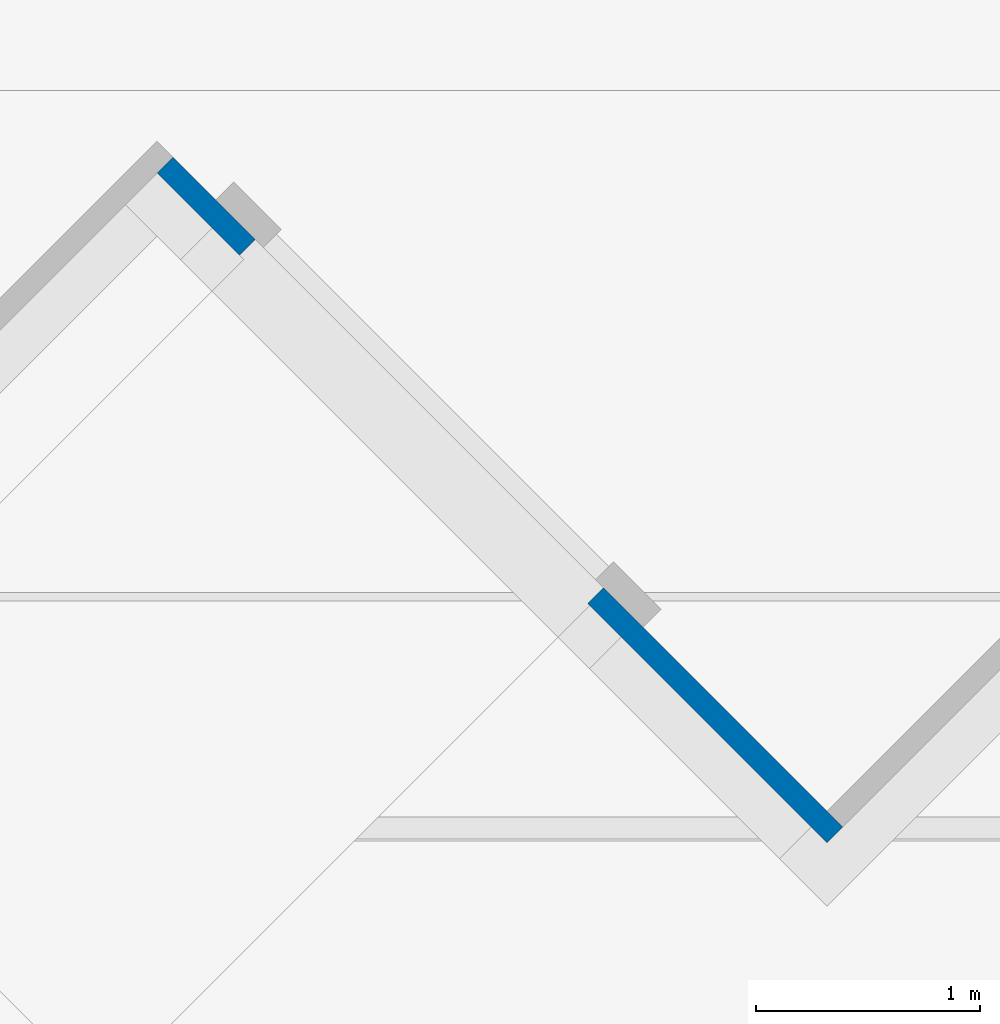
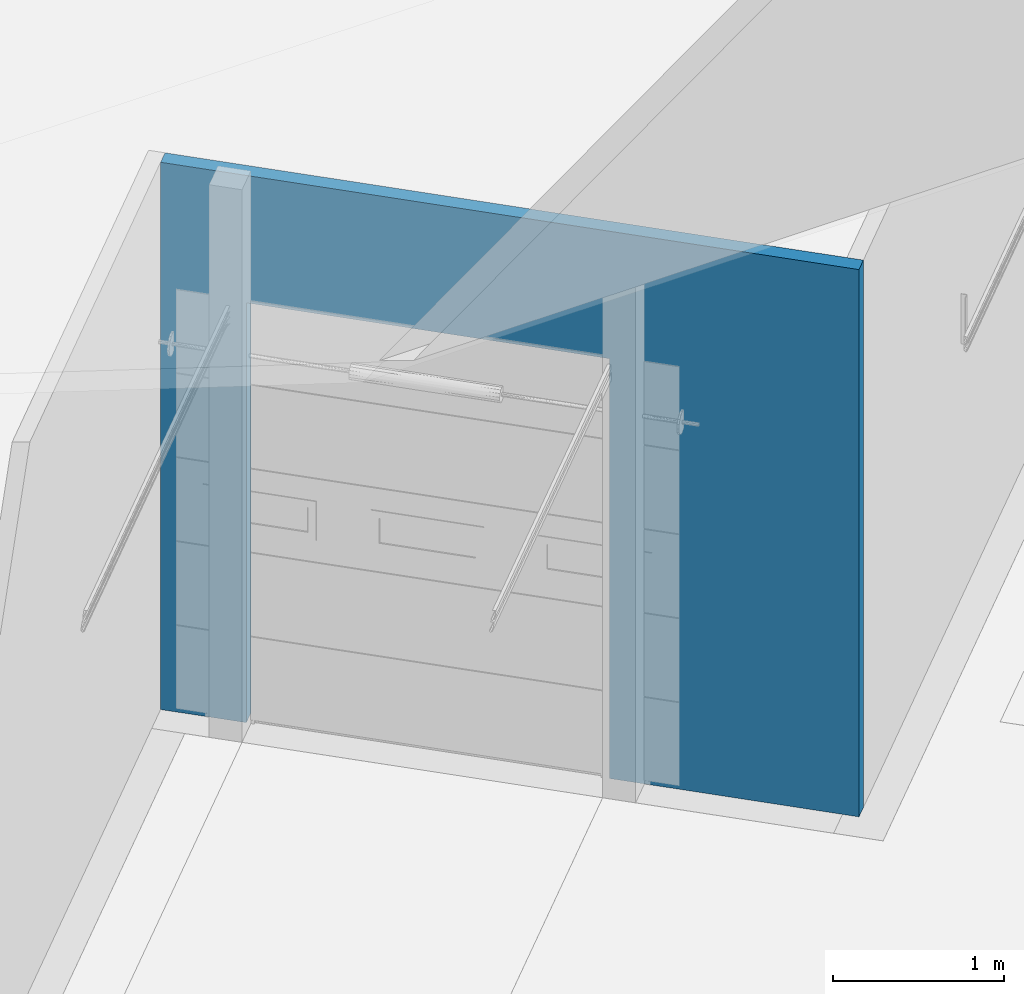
# One storey, part 21 of 64: 1 wall, 1 opening.
"""IFC2X3 building model written with IfcOpenShell, lengths in millimetres."""

from ifc_helpers import new_model, entity, si_unit, converted_unit, derived_unit, direction, frame, frame_2d, origin, place, context, subcontext, project, spatial, rectangle, extrude, material, layer, layer_set, layer_usage, type_object, element, save


model = new_model("IFC2X3")

# Units and contexts
model_context = context("Model", 3, precision=0.01, world=origin(), true_north=direction((4.05803320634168e-15, -1.0)))
body_context = subcontext(model_context, "Body", "Model", "MODEL_VIEW")
ifc_project = project(units=[si_unit("LENGTHUNIT", "METRE", prefix="MILLI"), si_unit("AREAUNIT", "SQUARE_METRE"), si_unit("VOLUMEUNIT", "CUBIC_METRE"), converted_unit("PLANEANGLEUNIT", "DEGREE", entity("IfcRatioMeasure", 0.0174532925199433), si_unit("PLANEANGLEUNIT", "RADIAN"), dimensions=[0, 0, 0, 0, 0, 0, 0]), si_unit("MASSUNIT", "GRAM", prefix="KILO"), derived_unit("MASSDENSITYUNIT", [(si_unit("MASSUNIT", "GRAM", prefix="KILO"), 1), (si_unit("LENGTHUNIT", "METRE"), -3)]), si_unit("TIMEUNIT", "SECOND"), si_unit("FREQUENCYUNIT", "HERTZ"), si_unit("THERMODYNAMICTEMPERATUREUNIT", "DEGREE_CELSIUS"), derived_unit("THERMALTRANSMITTANCEUNIT", [(si_unit("MASSUNIT", "GRAM", prefix="KILO"), 1), (si_unit("THERMODYNAMICTEMPERATUREUNIT", "KELVIN"), -1), (si_unit("TIMEUNIT", "SECOND"), -3)]), derived_unit("VOLUMETRICFLOWRATEUNIT", [(si_unit("LENGTHUNIT", "METRE"), 3), (si_unit("TIMEUNIT", "SECOND"), -1)]), si_unit("ELECTRICCURRENTUNIT", "AMPERE"), si_unit("ELECTRICVOLTAGEUNIT", "VOLT"), si_unit("POWERUNIT", "WATT"), si_unit("FORCEUNIT", "NEWTON", prefix="KILO"), si_unit("ILLUMINANCEUNIT", "LUX"), si_unit("LUMINOUSFLUXUNIT", "LUMEN"), si_unit("LUMINOUSINTENSITYUNIT", "CANDELA"), derived_unit("USERDEFINED", [(si_unit("MASSUNIT", "GRAM", prefix="KILO"), -1), (si_unit("LENGTHUNIT", "METRE"), -2), (si_unit("TIMEUNIT", "SECOND"), 3), (si_unit("LUMINOUSFLUXUNIT", "LUMEN"), 1)]), derived_unit("LINEARVELOCITYUNIT", [(si_unit("LENGTHUNIT", "METRE"), 1), (si_unit("TIMEUNIT", "SECOND"), -1)]), si_unit("PRESSUREUNIT", "PASCAL"), derived_unit("USERDEFINED", [(si_unit("LENGTHUNIT", "METRE"), -2), (si_unit("MASSUNIT", "GRAM", prefix="KILO"), 1), (si_unit("TIMEUNIT", "SECOND"), -2)])], contexts=[model_context])

# Site, building, storey
site_placement = place(None, frame((927466.849349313, 583801.882853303, 0.0), z_axis=(0.0, 0.0, 1.0), x_axis=(-1.0, 0.0, 0.0)))
site = spatial("IfcSite", under=ifc_project, at=site_placement, Name="Surface", CompositionType="ELEMENT")
building_placement = place(site_placement, origin())
building = spatial("IfcBuilding", under=site, at=building_placement, CompositionType="ELEMENT")
storey_placement = place(building_placement, frame((0.0, 0.0, 44170.0)))
storey = spatial("IfcBuildingStorey", under=building, at=storey_placement, Name="Ground FFL", CompositionType="ELEMENT", Elevation=44170.0)

# Wall, opening
ifc_material = material(Name="Isopenal")
ifc_layer = layer(ifc_material, 100.0)
ifc_layer_set = layer_set([ifc_layer], Name="Basic Wall:Isopanel")
ifc_layer_usage = layer_usage(ifc_layer_set, "AXIS2", "POSITIVE", -50.0)
wall_type = type_object("IfcWallType", Name="Basic Wall:Isopanel", PredefinedType="STANDARD", material=ifc_layer_set)
wall_placement = place(storey_placement, frame((-51157.8674291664, -30575.5946140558, 0.0), z_axis=(0.0, 0.0, 1.0), x_axis=(0.707106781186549, -0.707106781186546, 0.0)))
wall = element("IfcWallStandardCase", 1, at=wall_placement, inside=storey, type_object=wall_type, material=ifc_layer_usage, Name="Basic Wall:Isopanel", ObjectType="Basic Wall:Isopanel", context=body_context, shape_type="SweptSolid", body=[
    extrude(rectangle(XDim=4232.26267936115, YDim=100.000000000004, at=frame_2d((2116.13133968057, -2.25242047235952e-12), x_axis=(-1.0, 0.0))), origin(), (0.0, 0.0, 1.0), 3910.35154955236),
])
opening_placement = place(wall_placement, frame((1512.26267936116, -50.0, 0.0)))
element("IfcOpeningElement", 2, at=opening_placement, cuts=wall, Name="6m_Roller Shutter Doors:3000(w) x 3000(h):1", ObjectType="Opening", context=body_context, shape_type="SweptSolid", body=[
    extrude(rectangle(XDim=3000.0, YDim=2200.0, at=frame_2d((1500.0, 1100.0), x_axis=(1.0, 0.0))), frame((0.0, 0.0, 0.0), z_axis=(0.0, 1.0, 0.0), x_axis=(0.0, 0.0, 1.0)), (0.0, 0.0, 1.0), 100.0),
])

save(model, "model.ifc")
